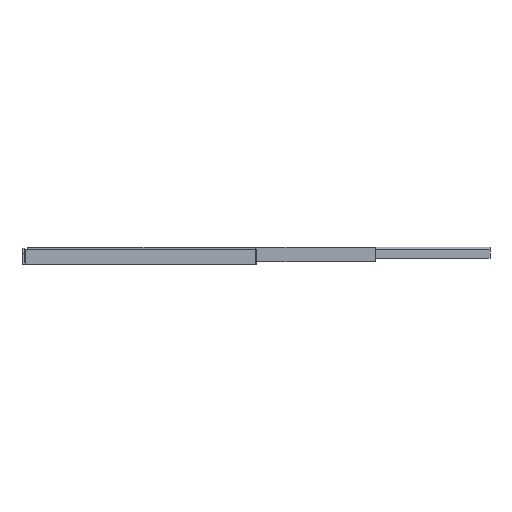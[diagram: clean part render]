
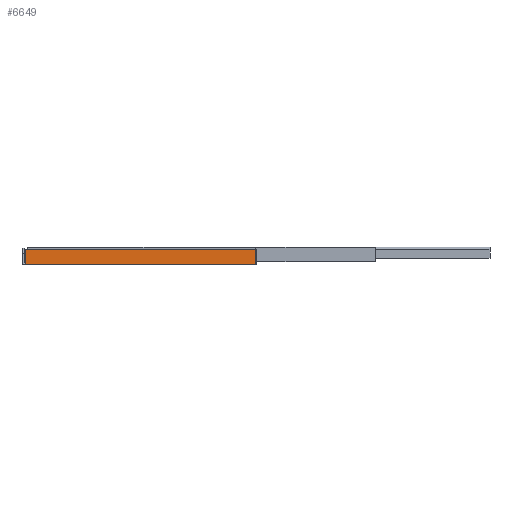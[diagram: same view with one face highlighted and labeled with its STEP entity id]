
A CAD part, left-side view. The second image highlights one B-rep face of the part: STEP entity #6649.
In plain terms, the highlighted planar face has unit normal (-1, 0.001, 0).
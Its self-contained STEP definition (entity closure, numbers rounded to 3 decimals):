
#5241=DIRECTION('',(0.,1.,0.));
#5242=VECTOR('',#5241,250.);
#5243=CARTESIAN_POINT('',(-38.299,0.,0.));
#5244=LINE('',#5243,#5242);
#5354=DIRECTION('',(0.,0.,-1.));
#5355=VECTOR('',#5354,16.3);
#5356=CARTESIAN_POINT('',(-38.299,250.,16.3));
#5357=LINE('',#5356,#5355);
#5530=DIRECTION('',(0.,0.,-1.));
#5531=VECTOR('',#5530,16.3);
#5532=CARTESIAN_POINT('',(-38.299,0.,16.3));
#5533=LINE('',#5532,#5531);
#5554=DIRECTION('',(0.,1.,0.));
#5555=VECTOR('',#5554,250.);
#5556=CARTESIAN_POINT('',(-38.299,0.,16.3));
#5557=LINE('',#5556,#5555);
#5656=CARTESIAN_POINT('',(-38.299,0.,16.3));
#5657=CARTESIAN_POINT('',(-38.299,0.,0.));
#5658=VERTEX_POINT('',#5656);
#5659=VERTEX_POINT('',#5657);
#5664=CARTESIAN_POINT('',(-38.299,250.,16.3));
#5665=CARTESIAN_POINT('',(-38.299,250.,0.));
#5666=VERTEX_POINT('',#5664);
#5667=VERTEX_POINT('',#5665);
#6637=CARTESIAN_POINT('',(-38.299,0.,16.3));
#6638=DIRECTION('',(-1.,0.,0.));
#6639=DIRECTION('',(0.,0.,-1.));
#6640=AXIS2_PLACEMENT_3D('',#6637,#6638,#6639);
#6641=PLANE('',#6640);
#6642=ORIENTED_EDGE('',*,*,#6615,.T.);
#6643=ORIENTED_EDGE('',*,*,#5860,.T.);
#6644=ORIENTED_EDGE('',*,*,#6309,.F.);
#6646=ORIENTED_EDGE('',*,*,#6645,.F.);
#6647=EDGE_LOOP('',(#6642,#6643,#6644,#6646));
#6648=FACE_OUTER_BOUND('',#6647,.F.);
#6649=ADVANCED_FACE('',(#6648),#6641,.T.);
#5860=EDGE_CURVE('',#5659,#5667,#5244,.T.);
#6309=EDGE_CURVE('',#5666,#5667,#5357,.T.);
#6615=EDGE_CURVE('',#5658,#5659,#5533,.T.);
#6645=EDGE_CURVE('',#5658,#5666,#5557,.T.);
